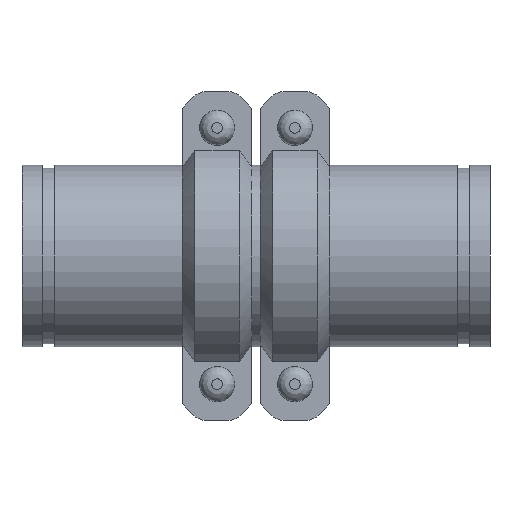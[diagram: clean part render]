
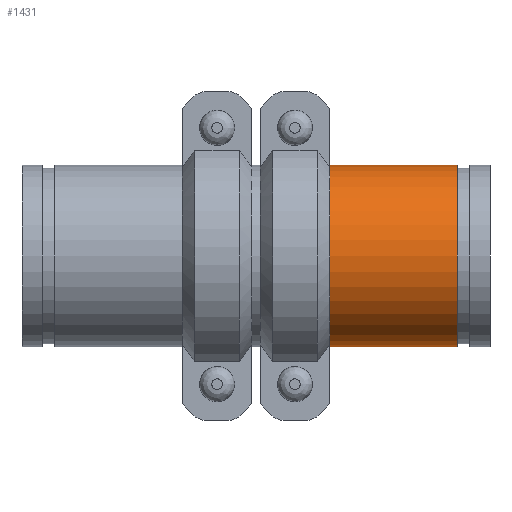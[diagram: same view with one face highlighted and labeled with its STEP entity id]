
A CAD part, front view. The second image highlights one B-rep face of the part: STEP entity #1431.
In plain terms, the highlighted cylindrical face has radius 70.65 mm (diameter 141.3 mm), a full revolution.
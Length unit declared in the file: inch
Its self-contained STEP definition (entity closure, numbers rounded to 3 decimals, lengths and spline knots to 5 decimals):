
#59=LINE('',#2304,#152);
#152=VECTOR('',#1861,2.7815);
#245=CYLINDRICAL_SURFACE('',#1647,2.7815);
#302=FACE_OUTER_BOUND('',#387,.T.);
#387=EDGE_LOOP('',(#940,#941,#942,#943,#944,#945));
#497=CIRCLE('',#1645,2.7815);
#498=CIRCLE('',#1646,2.7815);
#499=CIRCLE('',#1648,2.7815);
#500=CIRCLE('',#1649,2.7815);
#589=VERTEX_POINT('',#2295);
#590=VERTEX_POINT('',#2296);
#591=VERTEX_POINT('',#2300);
#592=VERTEX_POINT('',#2301);
#730=EDGE_CURVE('',#589,#590,#497,.T.);
#731=EDGE_CURVE('',#590,#589,#498,.T.);
#732=EDGE_CURVE('',#591,#592,#499,.T.);
#733=EDGE_CURVE('',#592,#591,#500,.T.);
#734=EDGE_CURVE('',#592,#590,#59,.T.);
#940=ORIENTED_EDGE('',*,*,#732,.F.);
#941=ORIENTED_EDGE('',*,*,#733,.F.);
#942=ORIENTED_EDGE('',*,*,#734,.T.);
#943=ORIENTED_EDGE('',*,*,#731,.T.);
#944=ORIENTED_EDGE('',*,*,#730,.T.);
#945=ORIENTED_EDGE('',*,*,#734,.F.);
#1431=ADVANCED_FACE('',(#302),#245,.T.);
#1645=AXIS2_PLACEMENT_3D('',#2297,#1851,#1852);
#1646=AXIS2_PLACEMENT_3D('',#2298,#1853,#1854);
#1647=AXIS2_PLACEMENT_3D('',#2299,#1855,#1856);
#1648=AXIS2_PLACEMENT_3D('',#2302,#1857,#1858);
#1649=AXIS2_PLACEMENT_3D('',#2303,#1859,#1860);
#1851=DIRECTION('center_axis',(-1.,0.,0.));
#1852=DIRECTION('ref_axis',(0.,0.,1.));
#1853=DIRECTION('center_axis',(-1.,0.,0.));
#1854=DIRECTION('ref_axis',(0.,0.,1.));
#1855=DIRECTION('center_axis',(-1.,0.,0.));
#1856=DIRECTION('ref_axis',(0.,1.,0.));
#1857=DIRECTION('center_axis',(-1.,0.,0.));
#1858=DIRECTION('ref_axis',(0.,0.,1.));
#1859=DIRECTION('center_axis',(-1.,0.,0.));
#1860=DIRECTION('ref_axis',(0.,0.,1.));
#1861=DIRECTION('',(1.,0.,0.));
#2295=CARTESIAN_POINT('',(1.985,2.7815,0.));
#2296=CARTESIAN_POINT('',(1.985,-2.7815,0.));
#2297=CARTESIAN_POINT('Origin',(1.985,0.,0.));
#2298=CARTESIAN_POINT('Origin',(1.985,0.,0.));
#2299=CARTESIAN_POINT('Origin',(0.,0.,
0.));
#2300=CARTESIAN_POINT('',(-1.985,2.7815,0.));
#2301=CARTESIAN_POINT('',(-1.985,-2.7815,0.));
#2302=CARTESIAN_POINT('Origin',(-1.985,0.,0.));
#2303=CARTESIAN_POINT('Origin',(-1.985,0.,0.));
#2304=CARTESIAN_POINT('',(0.,-2.7815,0.));
